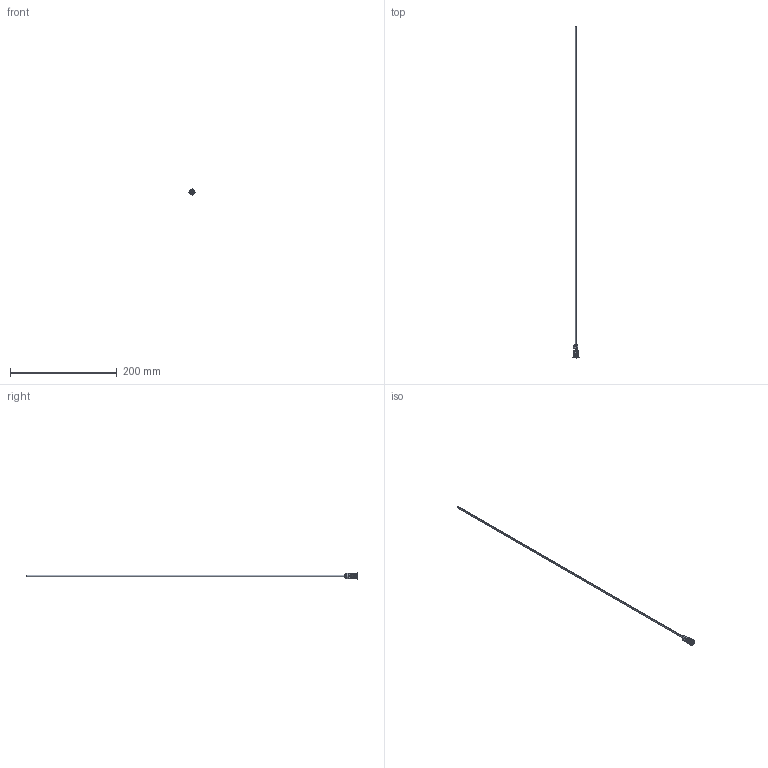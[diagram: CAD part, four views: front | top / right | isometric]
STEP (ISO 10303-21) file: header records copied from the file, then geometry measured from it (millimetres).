
FILE_DESCRIPTION (( 'STEP AP203' ), '1' );
FILE_NAME ('RF-10Fx600-3.STEP', '2015-11-19T16:09:23', ( 'Balzi' ), ( '' ), 'SwSTEP 2.0', 'SolidWorks 2015', '' );
FILE_SCHEMA (( 'CONFIG_CONTROL_DESIGN' ));
Length unit declared in the file: millimetre
Products named in the file (1): RF-10Fx600-3
Bounding box: 11.3 x 622.5 x 11.3 mm (x, y, z)
Volume: 2542.9 mm3; surface area: 11650.9 mm2
Topology: 1 solids, 1 shells, 71 faces, 164 edges, 102 vertices
Faces by surface type: plane 26, cylinder 25, cone 12, torus 8
Entity records: 2114 total; most frequent: DIRECTION 385, CARTESIAN_POINT 357, ORIENTED_EDGE 328, EDGE_CURVE 164, AXIS2_PLACEMENT_3D 154, VERTEX_POINT 102, CIRCLE 82, EDGE_LOOP 80
